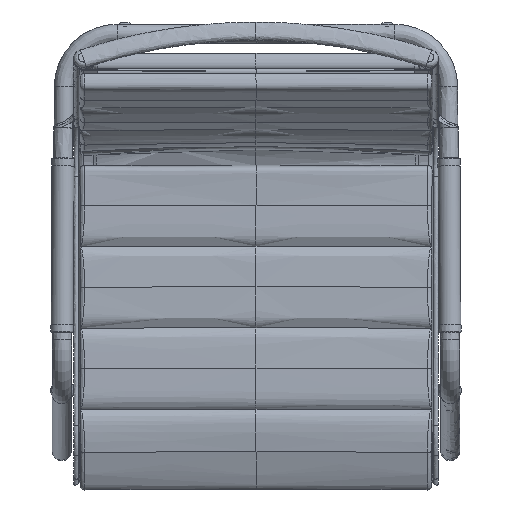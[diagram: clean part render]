
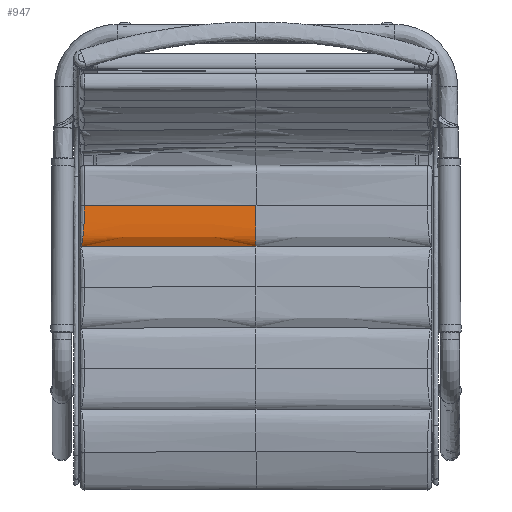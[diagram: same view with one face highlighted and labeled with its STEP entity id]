
A CAD part, top view. The second image highlights one B-rep face of the part: STEP entity #947.
In plain terms, the highlighted free-form (B-spline) face has degree [3, 3] with [7, 10] control points.
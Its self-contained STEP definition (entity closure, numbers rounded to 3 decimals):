
#347=B_SPLINE_SURFACE_WITH_KNOTS('',3,3,((#40885,#40886,#40887,#40888,#40889,
#40890,#40891,#40892,#40893,#40894),(#40895,#40896,#40897,#40898,#40899,
#40900,#40901,#40902,#40903,#40904),(#40905,#40906,#40907,#40908,#40909,
#40910,#40911,#40912,#40913,#40914),(#40915,#40916,#40917,#40918,#40919,
#40920,#40921,#40922,#40923,#40924),(#40925,#40926,#40927,#40928,#40929,
#40930,#40931,#40932,#40933,#40934),(#40935,#40936,#40937,#40938,#40939,
#40940,#40941,#40942,#40943,#40944),(#40945,#40946,#40947,#40948,#40949,
#40950,#40951,#40952,#40953,#40954)),.UNSPECIFIED.,.F.,.F.,.F.,(4,1,1,1,
4),(4,1,1,1,1,1,1,4),(0.327,10.734,21.14,
31.547,41.954),(0.,18.547,27.821,
37.095,41.732,46.369,51.005,55.642),
 .UNSPECIFIED.);
#947=ADVANCED_FACE('',(#1477),#347,.T.);
#1477=FACE_OUTER_BOUND('',#2007,.T.);
#2007=EDGE_LOOP('',(#3835,#3836,#3837,#3838));
#3835=ORIENTED_EDGE('',*,*,#5681,.F.);
#3836=ORIENTED_EDGE('',*,*,#5680,.F.);
#3837=ORIENTED_EDGE('',*,*,#5702,.F.);
#3838=ORIENTED_EDGE('',*,*,#5707,.F.);
#5680=EDGE_CURVE('',#8125,#8114,#6968,.T.);
#5681=EDGE_CURVE('',#8114,#8120,#6969,.T.);
#5702=EDGE_CURVE('',#8133,#8125,#6990,.T.);
#5707=EDGE_CURVE('',#8120,#8133,#6995,.T.);
#6968=B_SPLINE_CURVE_WITH_KNOTS('',3,(#43598,#43599,#43600,#43601,#43602,
#43603,#43604,#43605,#43606,#43607),.UNSPECIFIED.,.F.,.F.,(4,1,1,1,1,1,
1,4),(-55.642,-51.005,-46.369,-41.732,
-37.095,-27.821,-18.547,0.),.UNSPECIFIED.);
#6969=B_SPLINE_CURVE_WITH_KNOTS('',3,(#43608,#43609,#43610,#43611,#43612,
#43613,#43614),.UNSPECIFIED.,.F.,.F.,(4,1,1,1,4),(-41.954,-31.455,
-20.956,-10.457,-0.327),.UNSPECIFIED.);
#6990=B_SPLINE_CURVE_WITH_KNOTS('',3,(#43845,#43846,#43847,#43848,#43849),
 .UNSPECIFIED.,.F.,.F.,(4,1,4),(6.,118.5,231.),
 .UNSPECIFIED.);
#6995=B_SPLINE_CURVE_WITH_KNOTS('',3,(#43943,#43944,#43945,#43946,#43947,
#43948,#43949,#43950,#43951,#43952,#43953,#43954,#43955),.UNSPECIFIED.,
 .F.,.F.,(4,1,1,1,1,1,1,1,1,1,4),(0.,2.457,
4.914,7.245,9.576,14.615,19.653,
26.926,34.199,43.778,53.358),
 .UNSPECIFIED.);
#8114=VERTEX_POINT('',#43532);
#8120=VERTEX_POINT('',#43538);
#8125=VERTEX_POINT('',#43543);
#8133=VERTEX_POINT('',#43551);
#40885=CARTESIAN_POINT('',(-229.199,41.403,449.535));
#40886=CARTESIAN_POINT('',(-229.199,44.948,453.012));
#40887=CARTESIAN_POINT('',(-229.199,51.501,455.561));
#40888=CARTESIAN_POINT('',(-229.199,61.164,456.024));
#40889=CARTESIAN_POINT('',(-229.199,68.606,455.64));
#40890=CARTESIAN_POINT('',(-229.199,76.014,455.257));
#40891=CARTESIAN_POINT('',(-229.199,82.111,454.942));
#40892=CARTESIAN_POINT('',(-229.199,88.571,454.61));
#40893=CARTESIAN_POINT('',(-229.199,93.017,454.379));
#40894=CARTESIAN_POINT('',(-229.198,95.229,454.263));
#40895=CARTESIAN_POINT('',(-210.107,41.475,449.531));
#40896=CARTESIAN_POINT('',(-210.107,45.02,453.008));
#40897=CARTESIAN_POINT('',(-210.108,51.571,455.557));
#40898=CARTESIAN_POINT('',(-210.108,61.232,456.021));
#40899=CARTESIAN_POINT('',(-210.108,68.672,455.637));
#40900=CARTESIAN_POINT('',(-210.108,76.08,455.254));
#40901=CARTESIAN_POINT('',(-210.108,82.175,454.938));
#40902=CARTESIAN_POINT('',(-210.109,88.632,454.608));
#40903=CARTESIAN_POINT('',(-210.108,93.084,454.375));
#40904=CARTESIAN_POINT('',(-210.108,95.295,454.258));
#40905=CARTESIAN_POINT('',(-171.916,41.601,449.525));
#40906=CARTESIAN_POINT('',(-171.916,45.145,453.001));
#40907=CARTESIAN_POINT('',(-171.917,51.694,455.551));
#40908=CARTESIAN_POINT('',(-171.917,61.352,456.014));
#40909=CARTESIAN_POINT('',(-171.917,68.79,455.631));
#40910=CARTESIAN_POINT('',(-171.918,76.197,455.247));
#40911=CARTESIAN_POINT('',(-171.918,82.286,454.932));
#40912=CARTESIAN_POINT('',(-171.919,88.739,454.604));
#40913=CARTESIAN_POINT('',(-171.919,93.205,454.369));
#40914=CARTESIAN_POINT('',(-171.918,95.413,454.25));
#40915=CARTESIAN_POINT('',(-114.62,41.736,449.518));
#40916=CARTESIAN_POINT('',(-114.62,45.279,452.995));
#40917=CARTESIAN_POINT('',(-114.621,51.826,455.544));
#40918=CARTESIAN_POINT('',(-114.621,61.48,456.008));
#40919=CARTESIAN_POINT('',(-114.622,68.915,455.625));
#40920=CARTESIAN_POINT('',(-114.622,76.322,455.241));
#40921=CARTESIAN_POINT('',(-114.623,82.406,454.925));
#40922=CARTESIAN_POINT('',(-114.623,88.854,454.6));
#40923=CARTESIAN_POINT('',(-114.624,93.334,454.362));
#40924=CARTESIAN_POINT('',(-114.623,95.538,454.242));
#40925=CARTESIAN_POINT('',(-57.314,41.817,449.514));
#40926=CARTESIAN_POINT('',(-57.315,45.359,452.99));
#40927=CARTESIAN_POINT('',(-57.315,51.905,455.54));
#40928=CARTESIAN_POINT('',(-57.315,61.557,456.004));
#40929=CARTESIAN_POINT('',(-57.316,68.99,455.621));
#40930=CARTESIAN_POINT('',(-57.316,76.396,455.237));
#40931=CARTESIAN_POINT('',(-57.316,82.477,454.921));
#40932=CARTESIAN_POINT('',(-57.317,88.923,454.598));
#40933=CARTESIAN_POINT('',(-57.317,93.412,454.358));
#40934=CARTESIAN_POINT('',(-57.317,95.614,454.237));
#40935=CARTESIAN_POINT('',(-19.104,41.835,449.513));
#40936=CARTESIAN_POINT('',(-19.104,45.377,452.99));
#40937=CARTESIAN_POINT('',(-19.104,51.923,455.539));
#40938=CARTESIAN_POINT('',(-19.104,61.575,456.003));
#40939=CARTESIAN_POINT('',(-19.104,69.007,455.62));
#40940=CARTESIAN_POINT('',(-19.104,76.413,455.236));
#40941=CARTESIAN_POINT('',(-19.105,82.493,454.921));
#40942=CARTESIAN_POINT('',(-19.105,88.938,454.597));
#40943=CARTESIAN_POINT('',(-19.105,93.429,454.358));
#40944=CARTESIAN_POINT('',(-19.105,95.631,454.235));
#40945=CARTESIAN_POINT('',(0.,41.835,449.513));
#40946=CARTESIAN_POINT('',(0.,45.377,452.99));
#40947=CARTESIAN_POINT('',(0.,51.923,455.539));
#40948=CARTESIAN_POINT('',(0.,61.575,456.003));
#40949=CARTESIAN_POINT('',(0.,69.007,455.62));
#40950=CARTESIAN_POINT('',(0.,76.413,455.236));
#40951=CARTESIAN_POINT('',(0.,82.493,454.921));
#40952=CARTESIAN_POINT('',(0.,88.938,454.597));
#40953=CARTESIAN_POINT('',(0.,93.429,454.358));
#40954=CARTESIAN_POINT('',(0.,95.631,454.235));
#43532=CARTESIAN_POINT('',(0.,41.835,449.513));
#43538=CARTESIAN_POINT('',(-229.199,41.403,449.535));
#43543=CARTESIAN_POINT('',(0.,95.631,454.235));
#43551=CARTESIAN_POINT('',(-225.,95.243,454.262));
#43598=CARTESIAN_POINT('',(0.,95.631,454.235));
#43599=CARTESIAN_POINT('',(0.,93.429,454.358));
#43600=CARTESIAN_POINT('',(0.,88.938,454.597));
#43601=CARTESIAN_POINT('',(0.,82.493,454.921));
#43602=CARTESIAN_POINT('',(0.,76.413,455.236));
#43603=CARTESIAN_POINT('',(0.,69.007,455.62));
#43604=CARTESIAN_POINT('',(0.,61.575,456.003));
#43605=CARTESIAN_POINT('',(0.,51.923,455.539));
#43606=CARTESIAN_POINT('',(0.,45.377,452.99));
#43607=CARTESIAN_POINT('',(0.,41.835,449.513));
#43608=CARTESIAN_POINT('',(0.,41.835,449.513));
#43609=CARTESIAN_POINT('',(-19.273,41.835,449.513));
#43610=CARTESIAN_POINT('',(-57.822,41.817,449.514));
#43611=CARTESIAN_POINT('',(-115.636,41.734,449.518));
#43612=CARTESIAN_POINT('',(-172.762,41.598,449.525));
#43613=CARTESIAN_POINT('',(-210.615,41.473,449.532));
#43614=CARTESIAN_POINT('',(-229.199,41.403,449.535));
#43845=CARTESIAN_POINT('',(-225.,95.243,454.262));
#43846=CARTESIAN_POINT('',(-187.516,95.372,454.253));
#43847=CARTESIAN_POINT('',(-112.529,95.566,454.24));
#43848=CARTESIAN_POINT('',(-37.511,95.631,454.235));
#43849=CARTESIAN_POINT('',(0.,95.631,454.235));
#43943=CARTESIAN_POINT('',(-229.199,41.403,449.535));
#43944=CARTESIAN_POINT('',(-229.066,42.029,450.149));
#43945=CARTESIAN_POINT('',(-228.803,43.38,451.31));
#43946=CARTESIAN_POINT('',(-228.427,45.64,452.765));
#43947=CARTESIAN_POINT('',(-228.071,48.058,453.903));
#43948=CARTESIAN_POINT('',(-227.613,51.511,455.062));
#43949=CARTESIAN_POINT('',(-227.085,56.083,455.821));
#43950=CARTESIAN_POINT('',(-226.467,62.299,455.957));
#43951=CARTESIAN_POINT('',(-225.928,68.894,455.625));
#43952=CARTESIAN_POINT('',(-225.43,76.874,455.213));
#43953=CARTESIAN_POINT('',(-225.084,85.663,454.759));
#43954=CARTESIAN_POINT('',(-225.001,92.051,454.431));
#43955=CARTESIAN_POINT('',(-225.,95.243,454.262));
